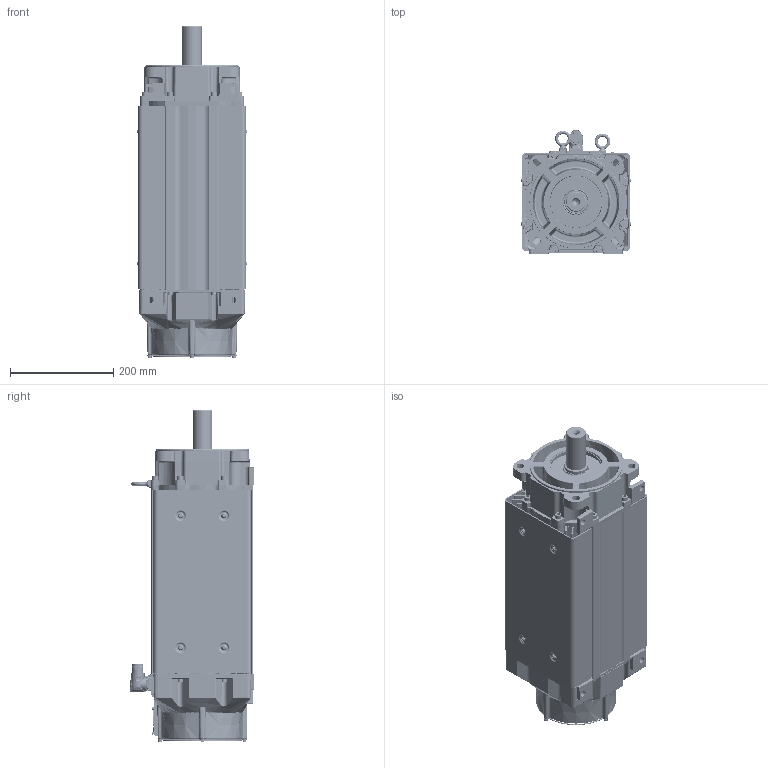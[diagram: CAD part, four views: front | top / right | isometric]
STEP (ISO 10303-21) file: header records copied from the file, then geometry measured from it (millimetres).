
FILE_DESCRIPTION((''),'2;1');
FILE_NAME('VPC-B21549-QK14FX_ASM','2016-09-27T',('SRGaddam'),('Rockwell Automation'),'PRO/ENGINEER BY PARAMETRIC TECHNOLOGY CORPORATION, 2012480','PRO/ENGINEER BY PARAMETRIC TECHNOLOGY CORPORATION, 2012480','');
FILE_SCHEMA(('CONFIG_CONTROL_DESIGN'));
Products named in the file (41): 10001238886_AF0; 10001298482_AF22; 10001284445_ASM; CH31X150; 10001371613; 10000569218; 10001416323; 10001587021; 10001257630_AF285; 10001300098_AF257; 10001314840_ASM; 10001289764; 10002069468; 10001935397; 10001713570; 10001713572_ASM; 91290A150BR; 10001289776; CH4X050; 10001587458; 91290A115; 10001336508; 10001409703; 10001299929; 10001284567; 10001518963; 91290A148BR; 10001587431; 91290A139BR; 10000231113; 10001289808_ASM; 10001609981; 0002-5005; 10001586886; 10001369859_KEYLESS; 142413_923; PRT0001_923; 142413-1_923_ASM; 10000172464; M923_ASM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
Assembly tree (79 placements, depth 4):
  VPC-B21549-QK14FX_ASM
    10001284445_ASM
      10001238886_AF0
      10001298482_AF22
    CH31X150  x8
    10001371613
    10000569218
    10001416323  x2
    10001587021  x8
    10001314840_ASM
      10001257630_AF285
      10001300098_AF257
    10001289808_ASM
      10001289764
      10002069468
      10001713572_ASM
        10001935397
        10001713570
      91290A150BR  x4
      10001289776
      CH4X050  x2
      10001587458
      91290A115  x5
      10001336508
      10001409703
      10001299929
      10001284567
      10001518963
      91290A148BR  x8
      10001587431
      91290A139BR
      10000231113
    10001609981
    0002-5005  x2
    10001586886  x6
    10001369859_KEYLESS
    M923_ASM
      142413-1_923_ASM
        142413_923
        PRT0001_923
      10000172464  x4
Bounding box: 210.91 x 240 x 641.61 mm (x, y, z)
Volume: 6091827.9 mm3; surface area: 1952632 mm2
Topology: 82 solids, 82 shells, 6578 faces, 15757 edges, 9613 vertices
Faces by surface type: plane 1940, cylinder 1812, bspline 1242, cone 808, torus 605, sphere 140, revolution 30, extrusion 1
Entity records: 231520 total; most frequent: CARTESIAN_POINT 109106, ORIENTED_EDGE 26582, DIRECTION 23743, EDGE_CURVE 13291, AXIS2_PLACEMENT_3D 9357, VERTEX_POINT 8198, EDGE_LOOP 5981, FACE_OUTER_BOUND 5487
